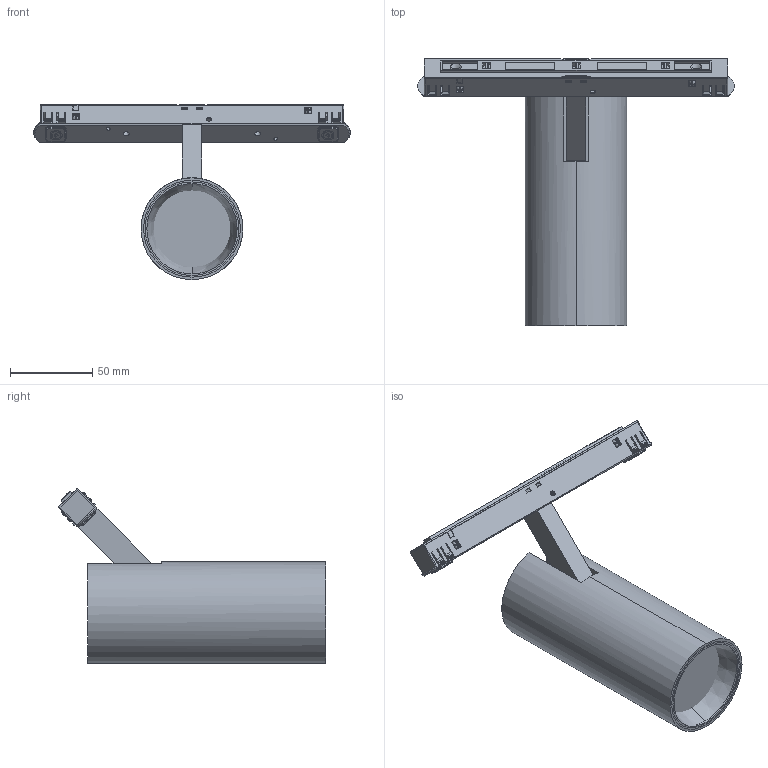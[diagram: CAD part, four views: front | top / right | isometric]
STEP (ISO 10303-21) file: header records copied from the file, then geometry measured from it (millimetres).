
FILE_DESCRIPTION (( 'STEP AP203' ), '1' );
FILE_NAME ('410118.STEP', '2025-04-02T02:32:32', ( '微软用户' ), ( '微软中国' ), 'SwSTEP 2.0', 'SolidWorks 2020', '' );
FILE_SCHEMA (( 'CONFIG_CONTROL_DESIGN' ));
Length unit declared in the file: millimetre
Products named in the file (18): 10-07-WJ1; 15X25MM_BAIBI_1; MANIFOLD_SOLID_BREP_1147; 10-08-G1_1; LVJI_BAN____1; MANIFOLD_SOLID_BREP_1148; 10-10-gk-2; 50X40MM_FGUANGBEI_1; MANIFOLD_SOLID_BREP_1149; 410118; 62_WAIHUAN_1; MANIFOLD_SOLID_BREP_1150; 62X170MM__ASM_8_ASM; MANIFOLD_SOLID_BREP_1155; MANIFOLD_SOLID_BREP_1145; MANIFOLD_SOLID_BREP_1156; 61X170MM_DENGTONG_6; MANIFOLD_SOLID_BREP_1146
Assembly tree (17 placements, depth 3):
  410118
    62X170MM__ASM_8_ASM
      61X170MM_DENGTONG_6
      15X25MM_BAIBI_1
      LVJI_BAN____1
      50X40MM_FGUANGBEI_1
      62_WAIHUAN_1
    10-10-gk-2
      MANIFOLD_SOLID_BREP_1145
      MANIFOLD_SOLID_BREP_1146
      MANIFOLD_SOLID_BREP_1147
      MANIFOLD_SOLID_BREP_1148
      MANIFOLD_SOLID_BREP_1149
      MANIFOLD_SOLID_BREP_1150
      MANIFOLD_SOLID_BREP_1155
      MANIFOLD_SOLID_BREP_1156
      10-07-WJ1
      10-08-G1_1
Bounding box: 192.8 x 162.94 x 106.73 mm (x, y, z)
Volume: 392615.7 mm3; surface area: 98190.5 mm2
Topology: 19 solids, 19 shells, 1333 faces, 3660 edges, 2394 vertices
Faces by surface type: plane 896, cylinder 276, bspline 108, cone 53
Entity records: 55112 total; most frequent: CARTESIAN_POINT 20708, ORIENTED_EDGE 7320, DIRECTION 5790, EDGE_CURVE 3660, LINE 2496, VECTOR 2496, VERTEX_POINT 2394, AXIS2_PLACEMENT_3D 1647
